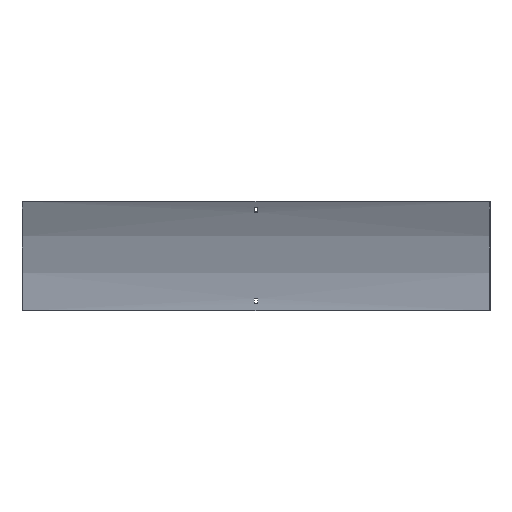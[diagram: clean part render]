
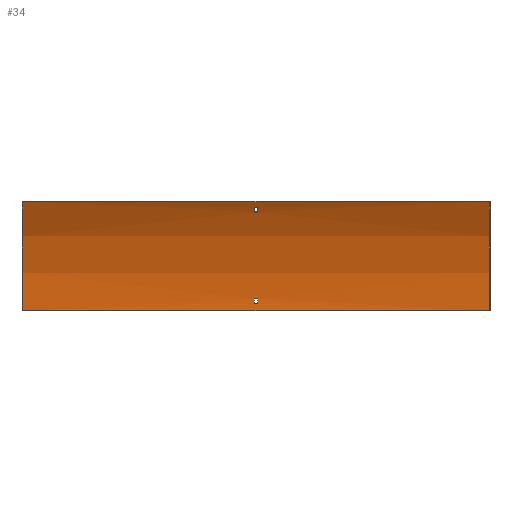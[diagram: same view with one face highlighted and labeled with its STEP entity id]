
A CAD part, front view. The second image highlights one B-rep face of the part: STEP entity #34.
In plain terms, the highlighted cylindrical face has radius 375 mm (diameter 750 mm), a partial arc.
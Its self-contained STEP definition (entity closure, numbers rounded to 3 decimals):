
#24 = DIRECTION ( 'NONE',  ( -1., 0., 0. ) ) ;
#26 = AXIS2_PLACEMENT_3D ( 'NONE', #346, #206, #457 ) ;
#34 = ADVANCED_FACE ( 'NONE', ( #475, #145, #321 ), #517, .F. ) ;
#45 = CARTESIAN_POINT ( 'NONE',  ( 3.25, -45.907, 177.012 ) ) ;
#48 = CIRCLE ( 'NONE', #118, 375. ) ;
#54 = VECTOR ( 'NONE', #322, 1000. ) ;
#58 = AXIS2_PLACEMENT_3D ( 'NONE', #248, #204, #339 ) ;
#59 = VECTOR ( 'NONE', #394, 1000. ) ;
#60 = DIRECTION ( 'NONE',  ( 0., 0., 1. ) ) ;
#64 = VERTEX_POINT ( 'NONE', #478 ) ;
#72 = DIRECTION ( 'NONE',  ( 1., 0., 0. ) ) ;
#77 = VERTEX_POINT ( 'NONE', #582 ) ;
#78 = DIRECTION ( 'NONE',  ( 0., 0., 1. ) ) ;
#90 = CARTESIAN_POINT ( 'NONE',  ( -400., -51.74, 187.5 ) ) ;
#92 = AXIS2_PLACEMENT_3D ( 'NONE', #449, #72, #343 ) ;
#93 = VECTOR ( 'NONE', #296, 1000. ) ;
#94 = EDGE_CURVE ( 'NONE', #299, #488, #386, .T. ) ;
#95 = CARTESIAN_POINT ( 'NONE',  ( 401.5, -376.5, 0. ) ) ;
#105 = DIRECTION ( 'NONE',  ( -1., 0., 0. ) ) ;
#113 = CARTESIAN_POINT ( 'NONE',  ( 401.5, -2.088, 21. ) ) ;
#118 = AXIS2_PLACEMENT_3D ( 'NONE', #294, #105, #482 ) ;
#123 = EDGE_CURVE ( 'NONE', #250, #266, #48, .T. ) ;
#131 = LINE ( 'NONE', #356, #214 ) ;
#133 = EDGE_LOOP ( 'NONE', ( #353, #344, #371, #292 ) ) ;
#137 = EDGE_CURVE ( 'NONE', #254, #383, #131, .T. ) ;
#138 = EDGE_CURVE ( 'NONE', #383, #368, #347, .T. ) ;
#141 = EDGE_LOOP ( 'NONE', ( #328, #465, #350, #459 ) ) ;
#144 = EDGE_CURVE ( 'NONE', #368, #302, #553, .T. ) ;
#145 = FACE_OUTER_BOUND ( 'NONE', #133, .T. ) ;
#149 = CARTESIAN_POINT ( 'NONE',  ( -3.25, -1.692, 12. ) ) ;
#155 = CARTESIAN_POINT ( 'NONE',  ( -3.25, -45.907, 177.012 ) ) ;
#159 = LINE ( 'NONE', #283, #59 ) ;
#182 = EDGE_CURVE ( 'NONE', #299, #64, #208, .T. ) ;
#183 = AXIS2_PLACEMENT_3D ( 'NONE', #421, #416, #520 ) ;
#189 = CARTESIAN_POINT ( 'NONE',  ( 400., -1.5, 0. ) ) ;
#193 = LINE ( 'NONE', #570, #54 ) ;
#204 = DIRECTION ( 'NONE',  ( 1., 0., 0. ) ) ;
#206 = DIRECTION ( 'NONE',  ( 1., 0., 0. ) ) ;
#208 = LINE ( 'NONE', #399, #318 ) ;
#214 = VECTOR ( 'NONE', #494, 1000. ) ;
#215 = DIRECTION ( 'NONE',  ( -1., 0., 0. ) ) ;
#224 = EDGE_CURVE ( 'NONE', #488, #597, #193, .T. ) ;
#239 = EDGE_LOOP ( 'NONE', ( #436, #535, #473, #576 ) ) ;
#240 = LINE ( 'NONE', #489, #93 ) ;
#247 = EDGE_CURVE ( 'NONE', #64, #597, #564, .T. ) ;
#248 = CARTESIAN_POINT ( 'NONE',  ( 400., -376.5, 0. ) ) ;
#250 = VERTEX_POINT ( 'NONE', #45 ) ;
#254 = VERTEX_POINT ( 'NONE', #149 ) ;
#266 = VERTEX_POINT ( 'NONE', #376 ) ;
#267 = CARTESIAN_POINT ( 'NONE',  ( -3.25, -376.5, 0. ) ) ;
#272 = CIRCLE ( 'NONE', #26, 375. ) ;
#277 = DIRECTION ( 'NONE',  ( -1., 0., 0. ) ) ;
#283 = CARTESIAN_POINT ( 'NONE',  ( 401.5, -41.75, 169.019 ) ) ;
#292 = ORIENTED_EDGE ( 'NONE', *, *, #224, .T. ) ;
#294 = CARTESIAN_POINT ( 'NONE',  ( 3.25, -376.5, 0. ) ) ;
#296 = DIRECTION ( 'NONE',  ( 1., 0., 0. ) ) ;
#299 = VERTEX_POINT ( 'NONE', #189 ) ;
#302 = VERTEX_POINT ( 'NONE', #370 ) ;
#313 = DIRECTION ( 'NONE',  ( -1., 0., 0. ) ) ;
#318 = VECTOR ( 'NONE', #215, 1000. ) ;
#321 = FACE_BOUND ( 'NONE', #239, .T. ) ;
#322 = DIRECTION ( 'NONE',  ( -1., 0., 0. ) ) ;
#326 = AXIS2_PLACEMENT_3D ( 'NONE', #95, #277, #60 ) ;
#328 = ORIENTED_EDGE ( 'NONE', *, *, #479, .F. ) ;
#338 = CIRCLE ( 'NONE', #516, 375. ) ;
#339 = DIRECTION ( 'NONE',  ( 0., 0., -1. ) ) ;
#343 = DIRECTION ( 'NONE',  ( 0., 0., -1. ) ) ;
#344 = ORIENTED_EDGE ( 'NONE', *, *, #182, .F. ) ;
#346 = CARTESIAN_POINT ( 'NONE',  ( -3.25, -376.5, 0. ) ) ;
#347 = CIRCLE ( 'NONE', #92, 375. ) ;
#350 = ORIENTED_EDGE ( 'NONE', *, *, #138, .F. ) ;
#353 = ORIENTED_EDGE ( 'NONE', *, *, #247, .F. ) ;
#356 = CARTESIAN_POINT ( 'NONE',  ( 401.5, -1.692, 12. ) ) ;
#360 = VERTEX_POINT ( 'NONE', #155 ) ;
#368 = VERTEX_POINT ( 'NONE', #595 ) ;
#370 = CARTESIAN_POINT ( 'NONE',  ( -3.25, -2.088, 21. ) ) ;
#371 = ORIENTED_EDGE ( 'NONE', *, *, #94, .T. ) ;
#372 = EDGE_CURVE ( 'NONE', #360, #250, #240, .T. ) ;
#376 = CARTESIAN_POINT ( 'NONE',  ( 3.25, -41.75, 169.019 ) ) ;
#378 = EDGE_CURVE ( 'NONE', #266, #77, #159, .T. ) ;
#383 = VERTEX_POINT ( 'NONE', #474 ) ;
#386 = CIRCLE ( 'NONE', #58, 375. ) ;
#394 = DIRECTION ( 'NONE',  ( -1., 0., 0. ) ) ;
#399 = CARTESIAN_POINT ( 'NONE',  ( 400., -1.5, 0. ) ) ;
#416 = DIRECTION ( 'NONE',  ( 1., 0., 0. ) ) ;
#421 = CARTESIAN_POINT ( 'NONE',  ( -400., -376.5, 0. ) ) ;
#436 = ORIENTED_EDGE ( 'NONE', *, *, #378, .T. ) ;
#449 = CARTESIAN_POINT ( 'NONE',  ( 3.25, -376.5, 0. ) ) ;
#457 = DIRECTION ( 'NONE',  ( 0., 0., -1. ) ) ;
#459 = ORIENTED_EDGE ( 'NONE', *, *, #137, .F. ) ;
#465 = ORIENTED_EDGE ( 'NONE', *, *, #144, .F. ) ;
#473 = ORIENTED_EDGE ( 'NONE', *, *, #372, .T. ) ;
#474 = CARTESIAN_POINT ( 'NONE',  ( 3.25, -1.692, 12. ) ) ;
#475 = FACE_BOUND ( 'NONE', #141, .T. ) ;
#476 = VECTOR ( 'NONE', #24, 1000. ) ;
#478 = CARTESIAN_POINT ( 'NONE',  ( -400., -1.5, 0. ) ) ;
#479 = EDGE_CURVE ( 'NONE', #302, #254, #338, .T. ) ;
#482 = DIRECTION ( 'NONE',  ( 0., 0., 1. ) ) ;
#488 = VERTEX_POINT ( 'NONE', #551 ) ;
#489 = CARTESIAN_POINT ( 'NONE',  ( 401.5, -45.907, 177.012 ) ) ;
#494 = DIRECTION ( 'NONE',  ( 1., 0., 0. ) ) ;
#516 = AXIS2_PLACEMENT_3D ( 'NONE', #267, #313, #78 ) ;
#517 = CYLINDRICAL_SURFACE ( 'NONE', #326, 375. ) ;
#520 = DIRECTION ( 'NONE',  ( 0., 0., -1. ) ) ;
#522 = EDGE_CURVE ( 'NONE', #77, #360, #272, .T. ) ;
#535 = ORIENTED_EDGE ( 'NONE', *, *, #522, .T. ) ;
#551 = CARTESIAN_POINT ( 'NONE',  ( 400., -51.74, 187.5 ) ) ;
#553 = LINE ( 'NONE', #113, #476 ) ;
#564 = CIRCLE ( 'NONE', #183, 375. ) ;
#570 = CARTESIAN_POINT ( 'NONE',  ( 400., -51.74, 187.5 ) ) ;
#576 = ORIENTED_EDGE ( 'NONE', *, *, #123, .T. ) ;
#582 = CARTESIAN_POINT ( 'NONE',  ( -3.25, -41.75, 169.019 ) ) ;
#595 = CARTESIAN_POINT ( 'NONE',  ( 3.25, -2.088, 21. ) ) ;
#597 = VERTEX_POINT ( 'NONE', #90 ) ;
